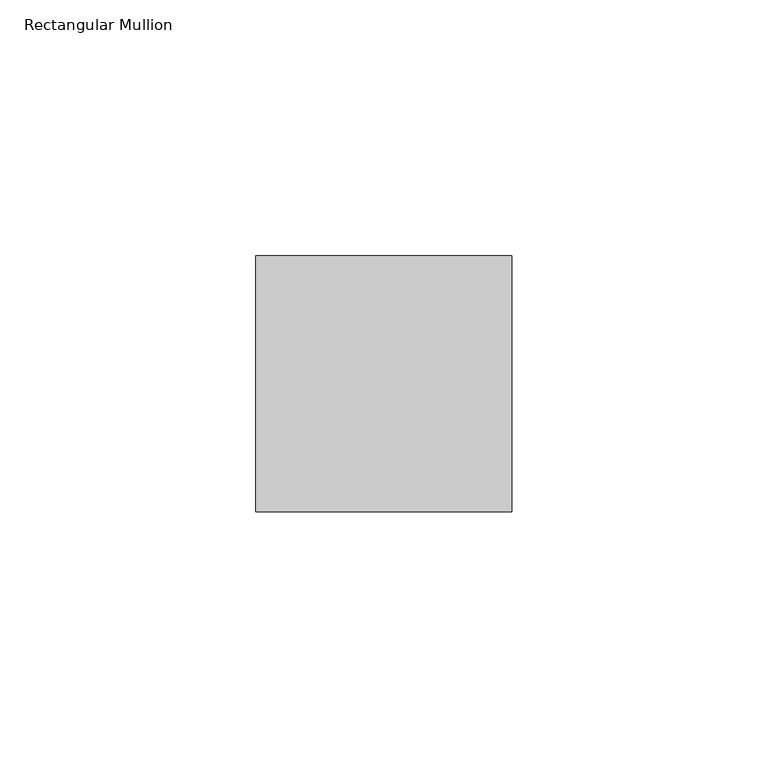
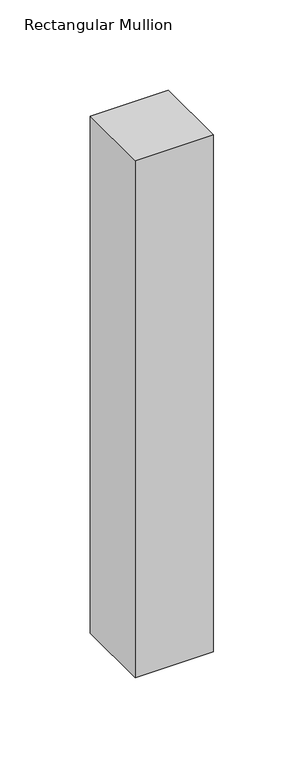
"""IFC4 building model written with IfcOpenShell, lengths in millimetres: member geometry, Rectangular Mullion : RSen_21_CWM_support profile 50x50_gen_duco projects."""

from ifc_helpers import new_model, si_unit, frame, origin, place, context, project, spatial, polyline, outline, extrude, source, transform, mapped, element, save


def rectangular_mullion_94c598e1(model_context):
    return source(origin(), model_context, "Body", "SweptSolid", [
        extrude(outline(polyline([(25.0, 1.0), (25.0, -49.0), (-25.0, -49.0), (-25.0, 1.0), (25.0, 1.0)])), frame((0.0, 0.0, -350.0), z_axis=(0.0, 0.0, 1.0), x_axis=(1.0, 0.0, 0.0)), (0.0, 0.0, 1.0), 350.0),
    ])


if __name__ == "__main__":
    model = new_model("IFC4")
    model_context = context("Model", 3, world=origin())
    ifc_project = project(units=[si_unit("LENGTHUNIT", "METRE", prefix="MILLI")], contexts=[model_context])
    site = spatial("IfcSite", under=ifc_project)
    building = spatial("IfcBuilding", under=site)
    placement = place(None, origin())
    rectangular_mullion_shape = rectangular_mullion_94c598e1(model_context)
    element("IfcMember", 1, ObjectType="Rectangular Mullion : RSen_21_CWM_support profile 50x50_gen_duco projects", at=placement, inside=building, context=model_context, shape_type="MappedRepresentation", body=[
        mapped(rectangular_mullion_shape, transform((0.0, 0.0, 0.0), x_axis=(1.0, 0.0, 0.0), y_axis=(0.0, 1.0, 0.0), z_axis=(0.0, 0.0, 1.0))),
    ])
    save(model, "model.ifc")
